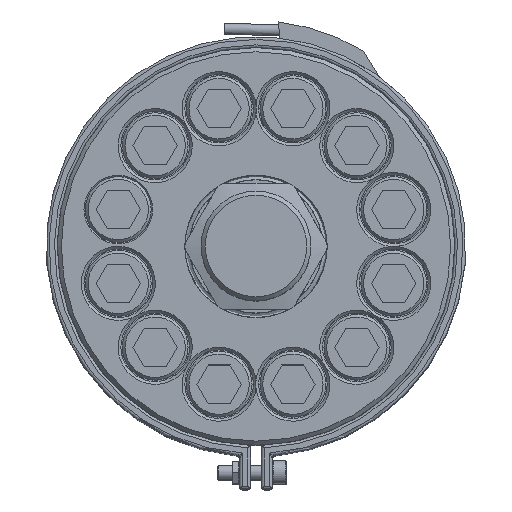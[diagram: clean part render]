
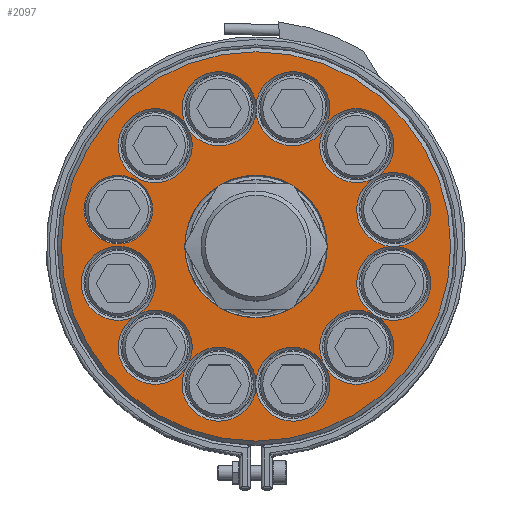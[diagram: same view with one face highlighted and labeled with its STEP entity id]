
A CAD part, top view. The second image highlights one B-rep face of the part: STEP entity #2097.
In plain terms, the highlighted planar face has unit normal (0, 0, 1).
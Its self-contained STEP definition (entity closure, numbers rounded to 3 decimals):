
#2097=ADVANCED_FACE('',(#4768,#4769,#4770,#4771),#4772,.F.);
#4768=FACE_BOUND('',#19627,.T.);
#4769=FACE_BOUND('',#19628,.T.);
#4770=FACE_OUTER_BOUND('',#19629,.T.);
#4771=FACE_BOUND('',#19630,.T.);
#4772=PLANE('',#19631);
#19627=EDGE_LOOP('',(#26016,#26017,#26018,#26019,#26020,#26021,#26022,#26023,#26024,#26025,#26026,#26027,#26028,#26029,#26030,#26031,#26032,#26033,#26034,#26035));
#19628=EDGE_LOOP('',(#26036));
#19629=EDGE_LOOP('',(#26037));
#19630=EDGE_LOOP('',(#26038));
#19631=AXIS2_PLACEMENT_3D('',#26039,#26040,#26041);
#26016=ORIENTED_EDGE('',*,*,#29650,.T.);
#26017=ORIENTED_EDGE('',*,*,#29676,.T.);
#26018=ORIENTED_EDGE('',*,*,#29655,.T.);
#26019=ORIENTED_EDGE('',*,*,#29661,.T.);
#26020=ORIENTED_EDGE('',*,*,#29668,.T.);
#26021=ORIENTED_EDGE('',*,*,#29662,.T.);
#26022=ORIENTED_EDGE('',*,*,#29657,.T.);
#26023=ORIENTED_EDGE('',*,*,#29677,.T.);
#26024=ORIENTED_EDGE('',*,*,#29651,.T.);
#26025=ORIENTED_EDGE('',*,*,#29646,.T.);
#26026=ORIENTED_EDGE('',*,*,#29678,.T.);
#26027=ORIENTED_EDGE('',*,*,#29640,.T.);
#26028=ORIENTED_EDGE('',*,*,#29635,.T.);
#26029=ORIENTED_EDGE('',*,*,#29625,.T.);
#26030=ORIENTED_EDGE('',*,*,#29630,.T.);
#26031=ORIENTED_EDGE('',*,*,#29627,.T.);
#26032=ORIENTED_EDGE('',*,*,#29634,.T.);
#26033=ORIENTED_EDGE('',*,*,#29639,.T.);
#26034=ORIENTED_EDGE('',*,*,#29679,.T.);
#26035=ORIENTED_EDGE('',*,*,#29644,.T.);
#26036=ORIENTED_EDGE('',*,*,#29680,.T.);
#26037=ORIENTED_EDGE('',*,*,#29681,.F.);
#26038=ORIENTED_EDGE('',*,*,#29673,.T.);
#26039=CARTESIAN_POINT('',(-71.,0.0,32.5));
#26040=DIRECTION('',(-0.0,0.,-1.0));
#26041=DIRECTION('',(0.0,1.0,0.));
#29625=EDGE_CURVE('',#32714,#32711,#32715,.T.);
#29627=EDGE_CURVE('',#32712,#32716,#32718,.T.);
#29630=EDGE_CURVE('',#32711,#32712,#32722,.T.);
#29634=EDGE_CURVE('',#32716,#32727,#32729,.T.);
#29635=EDGE_CURVE('',#32726,#32714,#32730,.T.);
#29639=EDGE_CURVE('',#32727,#32735,#32737,.T.);
#29640=EDGE_CURVE('',#32734,#32726,#32738,.T.);
#29644=EDGE_CURVE('',#32745,#32743,#32746,.T.);
#29646=EDGE_CURVE('',#32742,#32747,#32749,.T.);
#29650=EDGE_CURVE('',#32743,#32754,#32756,.T.);
#29651=EDGE_CURVE('',#32753,#32742,#32757,.T.);
#29655=EDGE_CURVE('',#32764,#32762,#32765,.T.);
#29657=EDGE_CURVE('',#32761,#32766,#32768,.T.);
#29661=EDGE_CURVE('',#32762,#32773,#32775,.T.);
#29662=EDGE_CURVE('',#32772,#32761,#32776,.T.);
#29668=EDGE_CURVE('',#32773,#32772,#32785,.T.);
#29673=EDGE_CURVE('',#32792,#32792,#32793,.T.);
#29676=EDGE_CURVE('',#32754,#32764,#32797,.T.);
#29677=EDGE_CURVE('',#32766,#32753,#32798,.T.);
#29678=EDGE_CURVE('',#32747,#32734,#32799,.T.);
#29679=EDGE_CURVE('',#32735,#32745,#32800,.T.);
#29680=EDGE_CURVE('',#32801,#32801,#32802,.T.);
#29681=EDGE_CURVE('',#32803,#32803,#32804,.T.);
#32711=VERTEX_POINT('',#39059);
#32712=VERTEX_POINT('',#39060);
#32714=VERTEX_POINT('',#39065);
#32715=CIRCLE('',#39066,13.5);
#32716=VERTEX_POINT('',#39067);
#32718=CIRCLE('',#39072,13.5);
#32722=CIRCLE('',#39076,13.5);
#32726=VERTEX_POINT('',#39080);
#32727=VERTEX_POINT('',#39081);
#32729=CIRCLE('',#39086,13.5);
#32730=CIRCLE('',#39087,13.5);
#32734=VERTEX_POINT('',#39091);
#32735=VERTEX_POINT('',#39092);
#32737=CIRCLE('',#39097,13.5);
#32738=CIRCLE('',#39098,13.5);
#32742=VERTEX_POINT('',#39102);
#32743=VERTEX_POINT('',#39103);
#32745=VERTEX_POINT('',#39108);
#32746=CIRCLE('',#39109,13.5);
#32747=VERTEX_POINT('',#39110);
#32749=CIRCLE('',#39115,13.5);
#32753=VERTEX_POINT('',#39119);
#32754=VERTEX_POINT('',#39120);
#32756=CIRCLE('',#39125,13.5);
#32757=CIRCLE('',#39126,13.5);
#32761=VERTEX_POINT('',#39130);
#32762=VERTEX_POINT('',#39131);
#32764=VERTEX_POINT('',#39136);
#32765=CIRCLE('',#39137,13.5);
#32766=VERTEX_POINT('',#39138);
#32768=CIRCLE('',#39143,13.5);
#32772=VERTEX_POINT('',#39147);
#32773=VERTEX_POINT('',#39148);
#32775=CIRCLE('',#39153,13.5);
#32776=CIRCLE('',#39154,13.5);
#32785=CIRCLE('',#39163,13.5);
#32792=VERTEX_POINT('',#39170);
#32793=CIRCLE('',#39171,26.);
#32797=CIRCLE('',#39175,13.5);
#32798=CIRCLE('',#39176,13.5);
#32799=CIRCLE('',#39177,13.5);
#32800=CIRCLE('',#39178,13.5);
#32801=VERTEX_POINT('',#39179);
#32802=CIRCLE('',#39180,12.5);
#32803=VERTEX_POINT('',#39181);
#32804=CIRCLE('',#39182,71.);
#39059=CARTESIAN_POINT('',(-24.586,42.584,32.5));
#39060=CARTESIAN_POINT('',(-25.642,44.414,32.5));
#39065=CARTESIAN_POINT('',(0.0,49.172,32.5));
#39066=AXIS2_PLACEMENT_3D('',#42036,#42037,#42038);
#39067=CARTESIAN_POINT('',(0.0,51.285,32.5));
#39072=AXIS2_PLACEMENT_3D('',#42039,#42040,#42041);
#39076=AXIS2_PLACEMENT_3D('',#42045,#42046,#42047);
#39080=CARTESIAN_POINT('',(24.586,42.584,32.5));
#39081=CARTESIAN_POINT('',(25.642,44.414,32.5));
#39086=AXIS2_PLACEMENT_3D('',#42051,#42052,#42053);
#39087=AXIS2_PLACEMENT_3D('',#42054,#42055,#42056);
#39091=CARTESIAN_POINT('',(42.584,24.586,32.5));
#39092=CARTESIAN_POINT('',(44.414,25.642,32.5));
#39097=AXIS2_PLACEMENT_3D('',#42060,#42061,#42062);
#39098=AXIS2_PLACEMENT_3D('',#42063,#42064,#42065);
#39102=CARTESIAN_POINT('',(42.584,-24.586,32.5));
#39103=CARTESIAN_POINT('',(44.414,-25.642,32.5));
#39108=CARTESIAN_POINT('',(51.285,0.,32.5));
#39109=AXIS2_PLACEMENT_3D('',#42069,#42070,#42071);
#39110=CARTESIAN_POINT('',(49.172,0.,32.5));
#39115=AXIS2_PLACEMENT_3D('',#42072,#42073,#42074);
#39119=CARTESIAN_POINT('',(24.586,-42.584,32.5));
#39120=CARTESIAN_POINT('',(25.642,-44.414,32.5));
#39125=AXIS2_PLACEMENT_3D('',#42078,#42079,#42080);
#39126=AXIS2_PLACEMENT_3D('',#42081,#42082,#42083);
#39130=CARTESIAN_POINT('',(-24.586,-42.584,32.5));
#39131=CARTESIAN_POINT('',(-25.642,-44.414,32.5));
#39136=CARTESIAN_POINT('',(0.,-51.285,32.5));
#39137=AXIS2_PLACEMENT_3D('',#42087,#42088,#42089);
#39138=CARTESIAN_POINT('',(0.,-49.172,32.5));
#39143=AXIS2_PLACEMENT_3D('',#42090,#42091,#42092);
#39147=CARTESIAN_POINT('',(-42.584,-24.586,32.5));
#39148=CARTESIAN_POINT('',(-44.414,-25.642,32.5));
#39153=AXIS2_PLACEMENT_3D('',#42096,#42097,#42098);
#39154=AXIS2_PLACEMENT_3D('',#42099,#42100,#42101);
#39163=AXIS2_PLACEMENT_3D('',#42111,#42112,#42113);
#39170=CARTESIAN_POINT('',(0.0,26.,32.5));
#39171=AXIS2_PLACEMENT_3D('',#42120,#42121,#42122);
#39175=AXIS2_PLACEMENT_3D('',#42126,#42127,#42128);
#39176=AXIS2_PLACEMENT_3D('',#42129,#42130,#42131);
#39177=AXIS2_PLACEMENT_3D('',#42132,#42133,#42134);
#39178=AXIS2_PLACEMENT_3D('',#42135,#42136,#42137);
#39179=CARTESIAN_POINT('',(-37.728,13.459,32.5));
#39180=AXIS2_PLACEMENT_3D('',#42138,#42139,#42140);
#39181=CARTESIAN_POINT('',(0.0,71.,32.5));
#39182=AXIS2_PLACEMENT_3D('',#42141,#42142,#42143);
#42036=CARTESIAN_POINT('',(-13.459,50.228,32.5));
#42037=DIRECTION('',(-0.0,0.,-1.0));
#42038=DIRECTION('',(0.0,1.0,0.));
#42039=CARTESIAN_POINT('',(-13.459,50.228,32.5));
#42040=DIRECTION('',(-0.0,0.,-1.0));
#42041=DIRECTION('',(0.0,1.0,0.));
#42045=CARTESIAN_POINT('',(-36.77,36.77,32.5));
#42046=DIRECTION('',(-0.0,0.,-1.0));
#42047=DIRECTION('',(0.0,1.0,0.));
#42051=CARTESIAN_POINT('',(13.459,50.228,32.5));
#42052=DIRECTION('',(-0.0,0.,-1.0));
#42053=DIRECTION('',(0.0,1.0,0.));
#42054=CARTESIAN_POINT('',(13.459,50.228,32.5));
#42055=DIRECTION('',(-0.0,0.,-1.0));
#42056=DIRECTION('',(0.0,1.0,0.));
#42060=CARTESIAN_POINT('',(36.77,36.77,32.5));
#42061=DIRECTION('',(-0.0,0.,-1.0));
#42062=DIRECTION('',(0.0,1.0,0.));
#42063=CARTESIAN_POINT('',(36.77,36.77,32.5));
#42064=DIRECTION('',(-0.0,0.,-1.0));
#42065=DIRECTION('',(0.0,1.0,0.));
#42069=CARTESIAN_POINT('',(50.228,-13.459,32.5));
#42070=DIRECTION('',(-0.0,0.,-1.0));
#42071=DIRECTION('',(0.0,1.0,0.));
#42072=CARTESIAN_POINT('',(50.228,-13.459,32.5));
#42073=DIRECTION('',(-0.0,0.,-1.0));
#42074=DIRECTION('',(0.0,1.0,0.));
#42078=CARTESIAN_POINT('',(36.77,-36.77,32.5));
#42079=DIRECTION('',(-0.0,0.,-1.0));
#42080=DIRECTION('',(0.0,1.0,0.));
#42081=CARTESIAN_POINT('',(36.77,-36.77,32.5));
#42082=DIRECTION('',(-0.0,0.,-1.0));
#42083=DIRECTION('',(0.0,1.0,0.));
#42087=CARTESIAN_POINT('',(-13.459,-50.228,32.5));
#42088=DIRECTION('',(-0.0,0.,-1.0));
#42089=DIRECTION('',(0.0,1.0,0.));
#42090=CARTESIAN_POINT('',(-13.459,-50.228,32.5));
#42091=DIRECTION('',(-0.0,0.,-1.0));
#42092=DIRECTION('',(0.0,1.0,0.));
#42096=CARTESIAN_POINT('',(-36.77,-36.77,32.5));
#42097=DIRECTION('',(-0.0,0.,-1.0));
#42098=DIRECTION('',(0.0,1.0,0.));
#42099=CARTESIAN_POINT('',(-36.77,-36.77,32.5));
#42100=DIRECTION('',(-0.0,0.,-1.0));
#42101=DIRECTION('',(0.0,1.0,0.));
#42111=CARTESIAN_POINT('',(-50.228,-13.459,32.5));
#42112=DIRECTION('',(-0.0,0.,-1.0));
#42113=DIRECTION('',(0.0,1.0,0.));
#42120=CARTESIAN_POINT('',(0.0,0.0,32.5));
#42121=DIRECTION('',(-0.0,0.,-1.0));
#42122=DIRECTION('',(0.0,1.0,0.));
#42126=CARTESIAN_POINT('',(13.459,-50.228,32.5));
#42127=DIRECTION('',(-0.0,0.,-1.0));
#42128=DIRECTION('',(0.0,1.0,0.));
#42129=CARTESIAN_POINT('',(13.459,-50.228,32.5));
#42130=DIRECTION('',(-0.0,0.,-1.0));
#42131=DIRECTION('',(0.0,1.0,0.));
#42132=CARTESIAN_POINT('',(50.228,13.459,32.5));
#42133=DIRECTION('',(-0.0,0.,-1.0));
#42134=DIRECTION('',(0.0,1.0,0.));
#42135=CARTESIAN_POINT('',(50.228,13.459,32.5));
#42136=DIRECTION('',(-0.0,0.,-1.0));
#42137=DIRECTION('',(0.0,1.0,0.));
#42138=CARTESIAN_POINT('',(-50.228,13.459,32.5));
#42139=DIRECTION('',(0.0,0.0,-1.0));
#42140=DIRECTION('',(1.0,0.0,0.0));
#42141=CARTESIAN_POINT('',(0.0,0.0,32.5));
#42142=DIRECTION('',(-0.0,0.,-1.0));
#42143=DIRECTION('',(0.0,1.0,0.));
